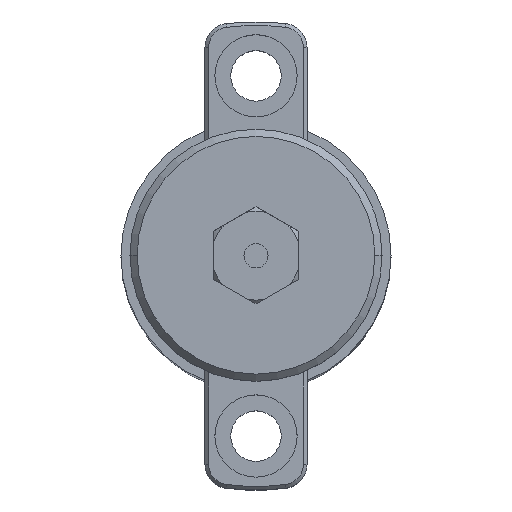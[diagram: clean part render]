
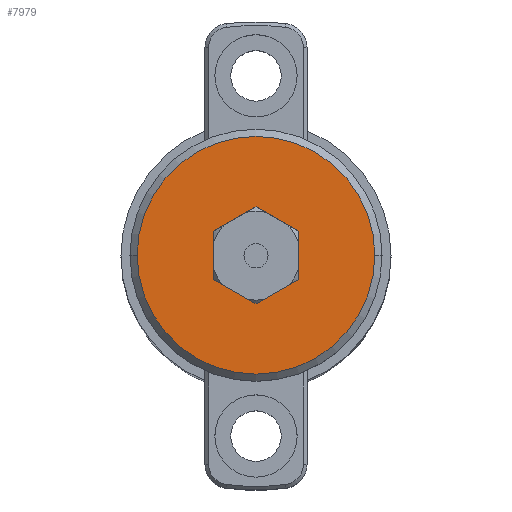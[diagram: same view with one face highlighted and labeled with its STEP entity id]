
A CAD part, top view. The second image highlights one B-rep face of the part: STEP entity #7979.
In plain terms, the highlighted planar face has unit normal (0, 0, 1).
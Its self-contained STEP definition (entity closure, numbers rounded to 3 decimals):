
#14 = CARTESIAN_POINT ( 'NONE',  ( 0., 0., 0. ) ) ;
#301 = ORIENTED_EDGE ( 'NONE', *, *, #11412, .F. ) ;
#452 = CARTESIAN_POINT ( 'NONE',  ( -7., 4.041, 0. ) ) ;
#535 = ORIENTED_EDGE ( 'NONE', *, *, #991, .T. ) ;
#609 = VERTEX_POINT ( 'NONE', #452 ) ;
#644 = VECTOR ( 'NONE', #6513, 1000. ) ;
#698 = AXIS2_PLACEMENT_3D ( 'NONE', #14, #8560, #1255 ) ;
#875 = CARTESIAN_POINT ( 'NONE',  ( 0., 19.8, 0. ) ) ;
#991 = EDGE_CURVE ( 'NONE', #13577, #6606, #15005, .T. ) ;
#1204 = CIRCLE ( 'NONE', #698, 19.8 ) ;
#1255 = DIRECTION ( 'NONE',  ( 1., 0., 0. ) ) ;
#1357 = FACE_BOUND ( 'NONE', #2015, .T. ) ;
#1437 = CARTESIAN_POINT ( 'NONE',  ( 7., 4.041, 0. ) ) ;
#1444 = AXIS2_PLACEMENT_3D ( 'NONE', #875, #13120, #5771 ) ;
#1504 = VERTEX_POINT ( 'NONE', #5688 ) ;
#1559 = CARTESIAN_POINT ( 'NONE',  ( 0., -8.083, 0. ) ) ;
#1735 = VERTEX_POINT ( 'NONE', #2332 ) ;
#2015 = EDGE_LOOP ( 'NONE', ( #10183, #9103, #9433, #301, #3735, #2489 ) ) ;
#2332 = CARTESIAN_POINT ( 'NONE',  ( 0., -8.083, 0. ) ) ;
#2489 = ORIENTED_EDGE ( 'NONE', *, *, #9544, .F. ) ;
#2666 = DIRECTION ( 'NONE',  ( -0.866, 0.5, 0. ) ) ;
#3080 = DIRECTION ( 'NONE',  ( 0., 1., 0. ) ) ;
#3089 = VECTOR ( 'NONE', #2666, 1000. ) ;
#3735 = ORIENTED_EDGE ( 'NONE', *, *, #12242, .F. ) ;
#4250 = DIRECTION ( 'NONE',  ( 0.866, -0.5, 0. ) ) ;
#4320 = EDGE_CURVE ( 'NONE', #10247, #609, #9593, .T. ) ;
#4448 = CARTESIAN_POINT ( 'NONE',  ( -7., 4.041, 0. ) ) ;
#4539 = EDGE_CURVE ( 'NONE', #6606, #13577, #1204, .T. ) ;
#4663 = VECTOR ( 'NONE', #10106, 1000. ) ;
#5526 = VECTOR ( 'NONE', #3080, 1000. ) ;
#5688 = CARTESIAN_POINT ( 'NONE',  ( 7., 4.041, 0. ) ) ;
#5766 = DIRECTION ( 'NONE',  ( 0., 0., 1. ) ) ;
#5771 = DIRECTION ( 'NONE',  ( -1., 0., 0. ) ) ;
#6471 = EDGE_CURVE ( 'NONE', #1504, #10247, #13223, .T. ) ;
#6513 = DIRECTION ( 'NONE',  ( -0.866, -0.5, 0. ) ) ;
#6606 = VERTEX_POINT ( 'NONE', #7765 ) ;
#6845 = CARTESIAN_POINT ( 'NONE',  ( -7., -4.041, 0. ) ) ;
#7728 = EDGE_CURVE ( 'NONE', #10138, #1504, #8769, .T. ) ;
#7765 = CARTESIAN_POINT ( 'NONE',  ( -19.8, 0., 0. ) ) ;
#7979 = ADVANCED_FACE ( 'NONE', ( #1357, #10343 ), #8185, .F. ) ;
#8185 = PLANE ( 'NONE',  #1444 ) ;
#8363 = VECTOR ( 'NONE', #15445, 1000. ) ;
#8560 = DIRECTION ( 'NONE',  ( 0., 0., 1. ) ) ;
#8769 = LINE ( 'NONE', #10387, #5526 ) ;
#9103 = ORIENTED_EDGE ( 'NONE', *, *, #6471, .F. ) ;
#9433 = ORIENTED_EDGE ( 'NONE', *, *, #7728, .F. ) ;
#9544 = EDGE_CURVE ( 'NONE', #609, #14718, #14896, .T. ) ;
#9551 = CARTESIAN_POINT ( 'NONE',  ( 0., 8.083, 0. ) ) ;
#9593 = LINE ( 'NONE', #12618, #644 ) ;
#9616 = VECTOR ( 'NONE', #4250, 1000. ) ;
#10019 = LINE ( 'NONE', #10393, #9616 ) ;
#10106 = DIRECTION ( 'NONE',  ( 0.866, 0.5, 0. ) ) ;
#10138 = VERTEX_POINT ( 'NONE', #11837 ) ;
#10183 = ORIENTED_EDGE ( 'NONE', *, *, #4320, .F. ) ;
#10247 = VERTEX_POINT ( 'NONE', #9551 ) ;
#10327 = AXIS2_PLACEMENT_3D ( 'NONE', #13110, #5766, #14344 ) ;
#10343 = FACE_OUTER_BOUND ( 'NONE', #15741, .T. ) ;
#10387 = CARTESIAN_POINT ( 'NONE',  ( 7., -4.041, 0. ) ) ;
#10393 = CARTESIAN_POINT ( 'NONE',  ( -7., -4.041, 0. ) ) ;
#11195 = LINE ( 'NONE', #1559, #4663 ) ;
#11412 = EDGE_CURVE ( 'NONE', #1735, #10138, #11195, .T. ) ;
#11837 = CARTESIAN_POINT ( 'NONE',  ( 7., -4.041, 0. ) ) ;
#11852 = CARTESIAN_POINT ( 'NONE',  ( 19.8, 0., 0. ) ) ;
#12242 = EDGE_CURVE ( 'NONE', #14718, #1735, #10019, .T. ) ;
#12618 = CARTESIAN_POINT ( 'NONE',  ( 0., 8.083, 0. ) ) ;
#13110 = CARTESIAN_POINT ( 'NONE',  ( 0., 0., 0. ) ) ;
#13120 = DIRECTION ( 'NONE',  ( 0., 0., -1. ) ) ;
#13223 = LINE ( 'NONE', #1437, #3089 ) ;
#13577 = VERTEX_POINT ( 'NONE', #11852 ) ;
#14344 = DIRECTION ( 'NONE',  ( 1., 0., 0. ) ) ;
#14596 = ORIENTED_EDGE ( 'NONE', *, *, #4539, .T. ) ;
#14718 = VERTEX_POINT ( 'NONE', #6845 ) ;
#14896 = LINE ( 'NONE', #4448, #8363 ) ;
#15005 = CIRCLE ( 'NONE', #10327, 19.8 ) ;
#15445 = DIRECTION ( 'NONE',  ( 0., -1., 0. ) ) ;
#15741 = EDGE_LOOP ( 'NONE', ( #14596, #535 ) ) ;
